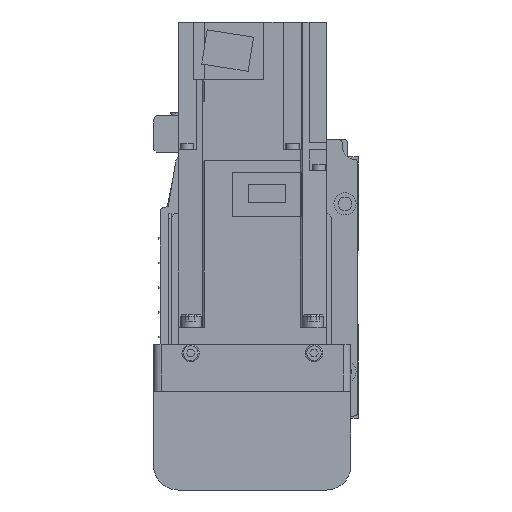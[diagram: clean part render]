
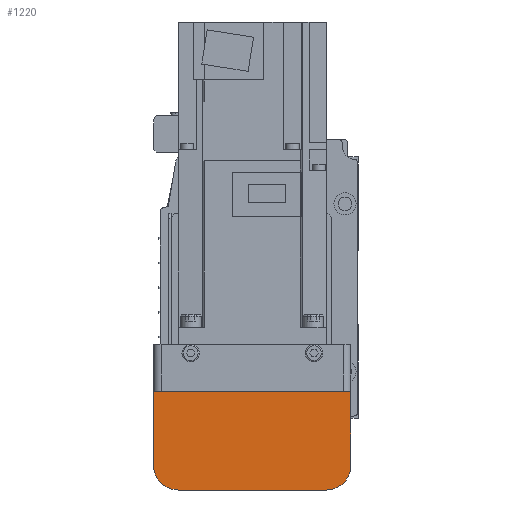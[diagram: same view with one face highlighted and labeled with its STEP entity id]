
A CAD part, left-side view. The second image highlights one B-rep face of the part: STEP entity #1220.
In plain terms, the highlighted planar face has unit normal (-1, 0, 0).
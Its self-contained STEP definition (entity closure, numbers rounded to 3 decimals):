
#1220 = ADVANCED_FACE( '', ( #2908 ), #2909, .F. );
#2908 = FACE_OUTER_BOUND( '', #5204, .T. );
#2909 = PLANE( '', #5205 );
#5204 = EDGE_LOOP( '', ( #8451, #8452, #8453, #8454, #8455, #8456 ) );
#5205 = AXIS2_PLACEMENT_3D( '', #8457, #8458, #8459 );
#8451 = ORIENTED_EDGE( '', *, *, #14063, .F. );
#8452 = ORIENTED_EDGE( '', *, *, #14064, .F. );
#8453 = ORIENTED_EDGE( '', *, *, #13736, .F. );
#8454 = ORIENTED_EDGE( '', *, *, #14065, .F. );
#8455 = ORIENTED_EDGE( '', *, *, #14066, .F. );
#8456 = ORIENTED_EDGE( '', *, *, #13821, .F. );
#8457 = CARTESIAN_POINT( '', ( -192., 37., 7. ) );
#8458 = DIRECTION( '', ( 1., 0., 0. ) );
#8459 = DIRECTION( '', ( 0., 0., -1. ) );
#13736 = EDGE_CURVE( '', #16601, #16603, #16604, .T. );
#13821 = EDGE_CURVE( '', #16740, #16742, #16743, .T. );
#14063 = EDGE_CURVE( '', #17133, #16740, #17134, .T. );
#14064 = EDGE_CURVE( '', #16603, #17133, #17135, .T. );
#14065 = EDGE_CURVE( '', #17136, #16601, #17137, .T. );
#14066 = EDGE_CURVE( '', #16742, #17136, #17138, .T. );
#16601 = VERTEX_POINT( '', #20531 );
#16603 = VERTEX_POINT( '', #20534 );
#16604 = CIRCLE( '', #20535, 10. );
#16740 = VERTEX_POINT( '', #20721 );
#16742 = VERTEX_POINT( '', #20724 );
#16743 = LINE( '', #20725, #20726 );
#17133 = VERTEX_POINT( '', #21253 );
#17134 = LINE( '', #21254, #21255 );
#17135 = LINE( '', #21256, #21257 );
#17136 = VERTEX_POINT( '', #21258 );
#17137 = LINE( '', #21259, #21260 );
#17138 = CIRCLE( '', #21261, 10. );
#20531 = CARTESIAN_POINT( '', ( -192., 30., -52. ) );
#20534 = CARTESIAN_POINT( '', ( -192., 40., -42. ) );
#20535 = AXIS2_PLACEMENT_3D( '', #24749, #24750, #24751 );
#20721 = CARTESIAN_POINT( '', ( -192., -40., -12.1 ) );
#20724 = CARTESIAN_POINT( '', ( -192., -40., -42. ) );
#20725 = CARTESIAN_POINT( '', ( -192., -40., -12.1 ) );
#20726 = VECTOR( '', #24842, 1000. );
#21253 = CARTESIAN_POINT( '', ( -192., 40., -12.1 ) );
#21254 = CARTESIAN_POINT( '', ( -192., 50., -12.1 ) );
#21255 = VECTOR( '', #25133, 1000. );
#21256 = CARTESIAN_POINT( '', ( -192., 40., -42. ) );
#21257 = VECTOR( '', #25134, 1000. );
#21258 = CARTESIAN_POINT( '', ( -192., -30., -52. ) );
#21259 = CARTESIAN_POINT( '', ( -192., -30., -52. ) );
#21260 = VECTOR( '', #25135, 1000. );
#21261 = AXIS2_PLACEMENT_3D( '', #25136, #25137, #25138 );
#24749 = CARTESIAN_POINT( '', ( -192., 30., -42. ) );
#24750 = DIRECTION( '', ( 1., 0., 0. ) );
#24751 = DIRECTION( '', ( 0., 0., -1. ) );
#24842 = DIRECTION( '', ( 0., 0., -1. ) );
#25133 = DIRECTION( '', ( 0., -1., 0. ) );
#25134 = DIRECTION( '', ( 0., 0., 1. ) );
#25135 = DIRECTION( '', ( 0., 1., 0. ) );
#25136 = CARTESIAN_POINT( '', ( -192., -30., -42. ) );
#25137 = DIRECTION( '', ( 1., 0., 0. ) );
#25138 = DIRECTION( '', ( 0., 0., -1. ) );
